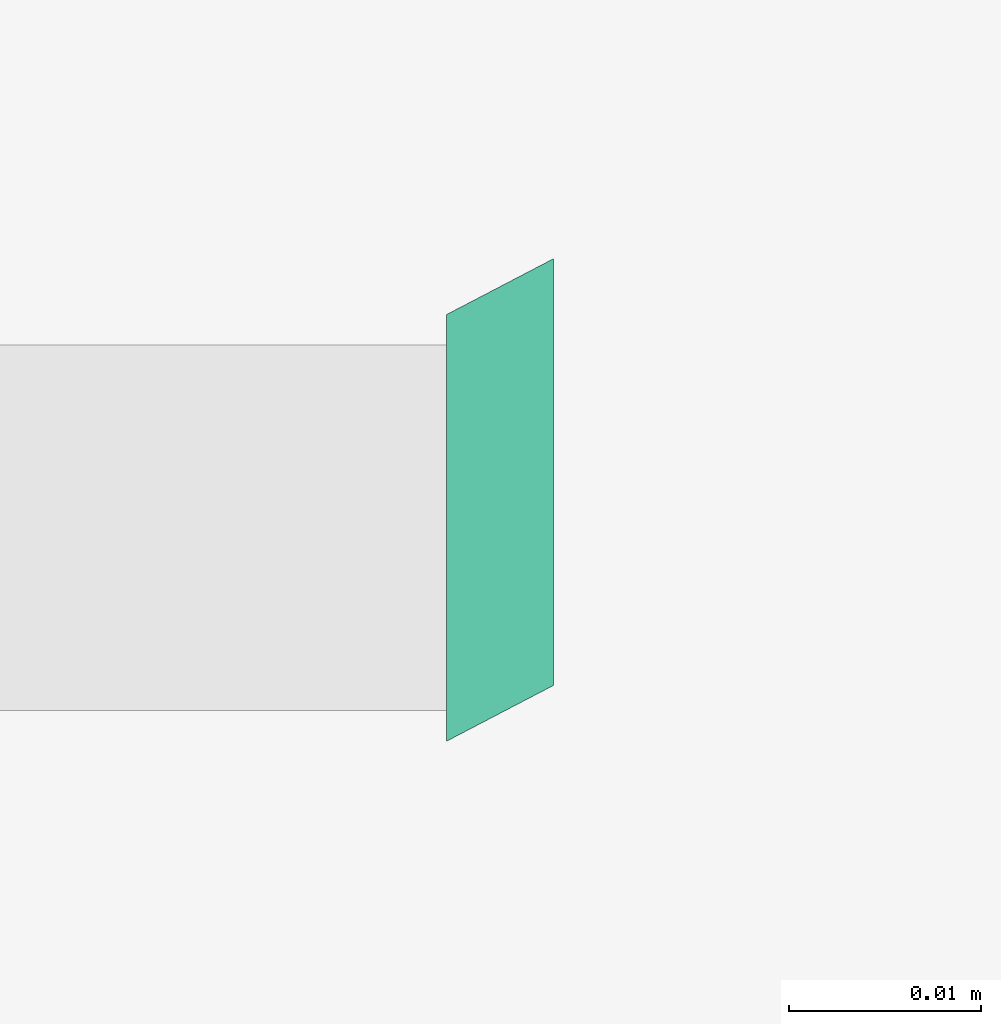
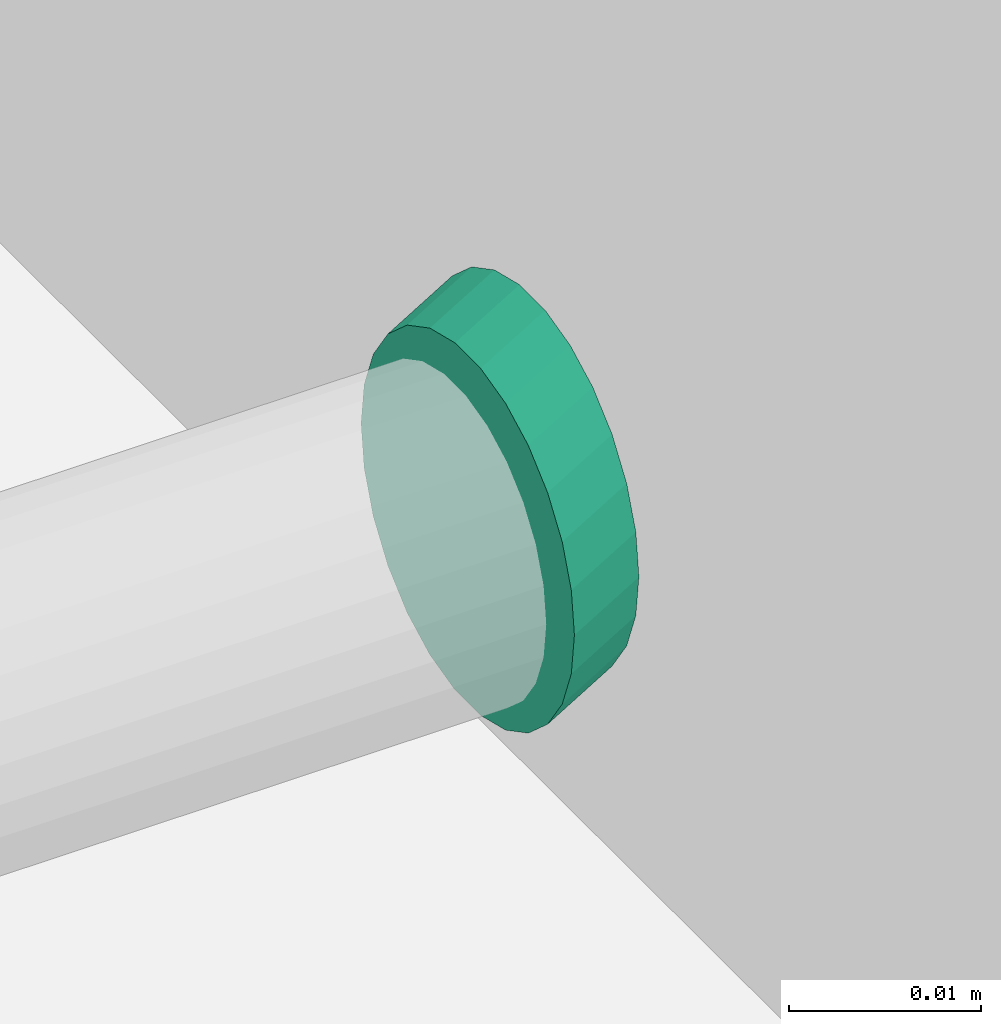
# One storey, part 14 of 22: 1 flow fitting.
"""IFC2X3 building model written with IfcOpenShell, lengths in millimetres."""

from ifc_helpers import new_model, entity, si_unit, converted_unit, derived_unit, direction, frame, origin, origin_2d_with_axis, place, context, subcontext, project, spatial, circle, extrude, source, transform, mapped, material, type_object, type_shapes, element, save


model = new_model("IFC2X3")

# Units and contexts
model_context = context("Model", 3, precision=0.01, world=origin(), true_north=direction((6.123031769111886e-17, 1.0)))
body_context = subcontext(model_context, "Body", "Model", "MODEL_VIEW")
ifc_project = project(units=[si_unit("LENGTHUNIT", "METRE", prefix="MILLI"), si_unit("AREAUNIT", "SQUARE_METRE"), si_unit("VOLUMEUNIT", "CUBIC_METRE"), converted_unit("PLANEANGLEUNIT", "DEGREE", entity("IfcRatioMeasure", 0.017453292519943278), si_unit("PLANEANGLEUNIT", "RADIAN"), dimensions=[0, 0, 0, 0, 0, 0, 0]), si_unit("MASSUNIT", "GRAM", prefix="KILO"), derived_unit("MASSDENSITYUNIT", [(si_unit("MASSUNIT", "GRAM", prefix="KILO"), 1), (si_unit("LENGTHUNIT", "METRE"), -3)]), derived_unit("MOMENTOFINERTIAUNIT", [(si_unit("LENGTHUNIT", "METRE"), 4)]), si_unit("TIMEUNIT", "SECOND"), si_unit("FREQUENCYUNIT", "HERTZ"), si_unit("THERMODYNAMICTEMPERATUREUNIT", "DEGREE_CELSIUS"), derived_unit("THERMALTRANSMITTANCEUNIT", [(si_unit("MASSUNIT", "GRAM", prefix="KILO"), 1), (si_unit("THERMODYNAMICTEMPERATUREUNIT", "KELVIN"), -1), (si_unit("TIMEUNIT", "SECOND"), -3)]), derived_unit("VOLUMETRICFLOWRATEUNIT", [(si_unit("LENGTHUNIT", "METRE"), 3), (si_unit("TIMEUNIT", "SECOND"), -1)]), derived_unit("MASSFLOWRATEUNIT", [(si_unit("MASSUNIT", "GRAM", prefix="KILO"), 1), (si_unit("TIMEUNIT", "SECOND"), -1)]), derived_unit("ROTATIONALFREQUENCYUNIT", [(si_unit("TIMEUNIT", "SECOND"), -1)]), si_unit("ELECTRICCURRENTUNIT", "AMPERE"), si_unit("ELECTRICVOLTAGEUNIT", "VOLT"), si_unit("POWERUNIT", "WATT"), si_unit("FORCEUNIT", "NEWTON", prefix="KILO"), si_unit("ILLUMINANCEUNIT", "LUX"), si_unit("LUMINOUSFLUXUNIT", "LUMEN"), si_unit("LUMINOUSINTENSITYUNIT", "CANDELA"), derived_unit("USERDEFINED", [(si_unit("MASSUNIT", "GRAM", prefix="KILO"), -1), (si_unit("LENGTHUNIT", "METRE"), -2), (si_unit("TIMEUNIT", "SECOND"), 3), (si_unit("LUMINOUSFLUXUNIT", "LUMEN"), 1)]), derived_unit("SOUNDPOWERUNIT", [(si_unit("MASSUNIT", "GRAM", prefix="KILO"), 1), (si_unit("LENGTHUNIT", "METRE"), 2), (si_unit("TIMEUNIT", "SECOND"), -3)]), derived_unit("SOUNDPRESSUREUNIT", [(si_unit("MASSUNIT", "GRAM", prefix="KILO"), 1), (si_unit("LENGTHUNIT", "METRE"), -1), (si_unit("TIMEUNIT", "SECOND"), -2)]), derived_unit("LINEARVELOCITYUNIT", [(si_unit("LENGTHUNIT", "METRE"), 1), (si_unit("TIMEUNIT", "SECOND"), -1)]), si_unit("PRESSUREUNIT", "PASCAL"), derived_unit("USERDEFINED", [(si_unit("LENGTHUNIT", "METRE"), -2), (si_unit("MASSUNIT", "GRAM", prefix="KILO"), 1), (si_unit("TIMEUNIT", "SECOND"), -2)]), derived_unit("LINEARFORCEUNIT", [(si_unit("MASSUNIT", "GRAM", prefix="KILO"), 1), (si_unit("LENGTHUNIT", "METRE"), 1), (si_unit("TIMEUNIT", "SECOND"), -2), (si_unit("LENGTHUNIT", "METRE"), -1)]), derived_unit("PLANARFORCEUNIT", [(si_unit("MASSUNIT", "GRAM", prefix="KILO"), 1), (si_unit("LENGTHUNIT", "METRE"), 1), (si_unit("TIMEUNIT", "SECOND"), -2), (si_unit("LENGTHUNIT", "METRE"), -2)])], contexts=[model_context])

# Site, building, storey
site_placement = place(None, origin())
site = spatial("IfcSite", under=ifc_project, at=site_placement, Name="Default", CompositionType="ELEMENT")
building_placement = place(site_placement, origin())
building = spatial("IfcBuilding", under=site, at=building_placement, CompositionType="ELEMENT")
storey_placement = place(building_placement, frame((0.0, 0.0, 3300.0)))
storey = spatial("IfcBuildingStorey", under=building, at=storey_placement, Name="Level 2", CompositionType="ELEMENT", Elevation=3299.99999999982)

# Flow fitting
ifc_material = material(Name="<Unnamed>")
pipe_fitting_type = type_object("IfcPipeFittingType", Name="M_Transition - Generic:Standard:Standard : M_Transition - Generic:Standard", PredefinedType="NOTDEFINED", material=ifc_material)
shared_shape = source(origin(), body_context, "Body", "SweptSolid", [
    extrude(circle(Radius=11.1125, at=origin_2d_with_axis()), frame((-9594.508352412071, 2188.1645547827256, 3548.25652489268), z_axis=(1.0, 0.0, 0.0), x_axis=(0.0, -1.0, 0.0)), (-0.4626707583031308, 0.0, 0.8865301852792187), 6.26741208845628),
])
type_shapes(pipe_fitting_type, [shared_shape])
flow_fitting_placement = place(storey_placement, frame((0.0, 0.0, -3300.0)))
element("IfcFlowFitting", 1, at=flow_fitting_placement, inside=storey, type_object=pipe_fitting_type, material=ifc_material, Name="M_Transition - Generic:Standard:Standard : M_Transition - Generic:Standard:Standard:Standard : M_Transition - Generic:Standard : M_Transition - Generic:Standard:Standard : M_Transition - Generic:Standard", ObjectType="M_Transition - Generic:Standard:Standard : M_Transition - Generic:Standard:Standard:Standard : M_Transition - Generic:Standard : M_Transition - Generic:Standard:Standard : M_Transition - Generic:Standard", context=body_context, shape_type="MappedRepresentation", body=[
    mapped(shared_shape, transform((0.0, 0.0, 0.0), scale=1.0)),
])

save(model, "model.ifc")
